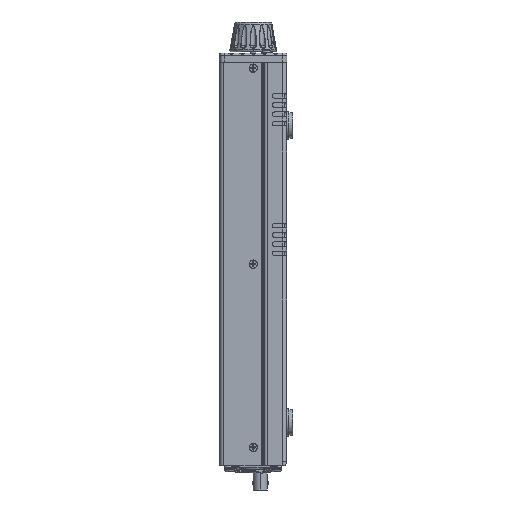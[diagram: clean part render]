
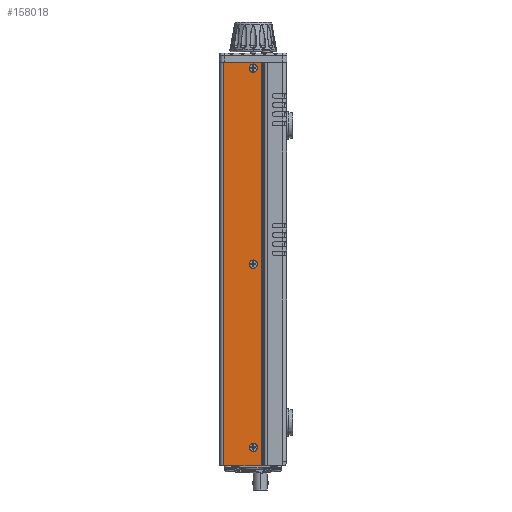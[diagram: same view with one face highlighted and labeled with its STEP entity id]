
A CAD part, left-side view. The second image highlights one B-rep face of the part: STEP entity #158018.
In plain terms, the highlighted planar face has unit normal (-1, 0, 0).
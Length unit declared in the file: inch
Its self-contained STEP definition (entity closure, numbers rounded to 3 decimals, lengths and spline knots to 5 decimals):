
#52 = CARTESIAN_POINT ( 'NONE',  ( -4.25, -0.12505, -0.9 ) ) ;
#580 = DIRECTION ( 'NONE',  ( -1., 0., 0. ) ) ;
#1906 = CARTESIAN_POINT ( 'NONE',  ( -4.25, 0., -5.8 ) ) ;
#3487 = DIRECTION ( 'NONE',  ( 0., 0., 1. ) ) ;
#14144 = VERTEX_POINT ( 'NONE', #163157 ) ;
#15755 = EDGE_CURVE ( 'NONE', #35605, #229981, #170378, .T. ) ;
#16556 = FACE_BOUND ( 'NONE', #234629, .T. ) ;
#17251 = EDGE_LOOP ( 'NONE', ( #135474, #212068, #50820, #133377 ) ) ;
#18383 = DIRECTION ( 'NONE',  ( 0., 0., -1. ) ) ;
#23065 = EDGE_CURVE ( 'NONE', #229981, #111968, #172896, .T. ) ;
#24872 = EDGE_LOOP ( 'NONE', ( #197271, #47864 ) ) ;
#25516 = VECTOR ( 'NONE', #200939, 39.37008 ) ;
#33002 = VECTOR ( 'NONE', #162336, 39.37008 ) ;
#33182 = VECTOR ( 'NONE', #148154, 39.37008 ) ;
#34723 = CIRCLE ( 'NONE', #165238, 0.1125 ) ;
#35605 = VERTEX_POINT ( 'NONE', #144251 ) ;
#35949 = PLANE ( 'NONE',  #103467 ) ;
#42245 = CARTESIAN_POINT ( 'NONE',  ( -4.25, 0., -5.575 ) ) ;
#47864 = ORIENTED_EDGE ( 'NONE', *, *, #232629, .F. ) ;
#50820 = ORIENTED_EDGE ( 'NONE', *, *, #70654, .T. ) ;
#53653 = CARTESIAN_POINT ( 'NONE',  ( -4.25, 0., -0.40625 ) ) ;
#54943 = CARTESIAN_POINT ( 'NONE',  ( -4.25, 0.8375, -11.125 ) ) ;
#55512 = VERTEX_POINT ( 'NONE', #229360 ) ;
#57649 = EDGE_CURVE ( 'NONE', #14144, #174170, #34723, .T. ) ;
#59257 = FACE_OUTER_BOUND ( 'NONE', #17251, .T. ) ;
#59294 = ORIENTED_EDGE ( 'NONE', *, *, #57649, .F. ) ;
#62232 = CARTESIAN_POINT ( 'NONE',  ( -4.25, 0., -0.40625 ) ) ;
#63808 = CIRCLE ( 'NONE', #178760, 0.1125 ) ;
#69036 = CARTESIAN_POINT ( 'NONE',  ( -4.25, 0., -5.6875 ) ) ;
#70432 = CARTESIAN_POINT ( 'NONE',  ( -4.25, 0., -10.5125 ) ) ;
#70654 = EDGE_CURVE ( 'NONE', #172071, #35605, #165263, .T. ) ;
#72048 = DIRECTION ( 'NONE',  ( 0., 0., 1. ) ) ;
#74945 = DIRECTION ( 'NONE',  ( -1., 0., 0. ) ) ;
#76412 = CARTESIAN_POINT ( 'NONE',  ( -4.25, -0.12505, -0.25 ) ) ;
#78704 = VERTEX_POINT ( 'NONE', #42245 ) ;
#80597 = DIRECTION ( 'NONE',  ( 0., 0., 1. ) ) ;
#81174 = CIRCLE ( 'NONE', #159958, 0.1125 ) ;
#81683 = CARTESIAN_POINT ( 'NONE',  ( -4.25, 0.79063, -11.125 ) ) ;
#87391 = DIRECTION ( 'NONE',  ( 0., 0., 1. ) ) ;
#89257 = EDGE_CURVE ( 'NONE', #224995, #55512, #81174, .T. ) ;
#91357 = CARTESIAN_POINT ( 'NONE',  ( -4.25, 0.79063, -0.9 ) ) ;
#92581 = AXIS2_PLACEMENT_3D ( 'NONE', #53653, #181267, #72048 ) ;
#92774 = AXIS2_PLACEMENT_3D ( 'NONE', #109724, #580, #128045 ) ;
#93504 = EDGE_CURVE ( 'NONE', #172071, #111968, #178471, .T. ) ;
#95393 = DIRECTION ( 'NONE',  ( 0., 0., 1. ) ) ;
#103467 = AXIS2_PLACEMENT_3D ( 'NONE', #52, #127527, #18383 ) ;
#105302 = CIRCLE ( 'NONE', #179673, 0.1125 ) ;
#107112 = CIRCLE ( 'NONE', #92774, 0.1125 ) ;
#107738 = FACE_BOUND ( 'NONE', #24872, .T. ) ;
#109724 = CARTESIAN_POINT ( 'NONE',  ( -4.25, 0., -10.625 ) ) ;
#110626 = EDGE_CURVE ( 'NONE', #55512, #224995, #107112, .T. ) ;
#111968 = VERTEX_POINT ( 'NONE', #159227 ) ;
#112655 = DIRECTION ( 'NONE',  ( -1., 0., 0. ) ) ;
#113208 = ORIENTED_EDGE ( 'NONE', *, *, #89257, .F. ) ;
#127527 = DIRECTION ( 'NONE',  ( 1., 0., 0. ) ) ;
#128045 = DIRECTION ( 'NONE',  ( 0., 0., 1. ) ) ;
#128148 = ORIENTED_EDGE ( 'NONE', *, *, #146706, .F. ) ;
#133377 = ORIENTED_EDGE ( 'NONE', *, *, #15755, .T. ) ;
#135474 = ORIENTED_EDGE ( 'NONE', *, *, #23065, .T. ) ;
#140170 = ORIENTED_EDGE ( 'NONE', *, *, #110626, .F. ) ;
#144251 = CARTESIAN_POINT ( 'NONE',  ( -4.25, -0.2125, -11.125 ) ) ;
#146706 = EDGE_CURVE ( 'NONE', #174170, #14144, #180785, .T. ) ;
#148154 = DIRECTION ( 'NONE',  ( 0., 1., 0. ) ) ;
#158018 = ADVANCED_FACE ( 'NONE', ( #59257, #107738, #204824, #16556 ), #35949, .F. ) ;
#159227 = CARTESIAN_POINT ( 'NONE',  ( -4.25, 0.79063, -0.25 ) ) ;
#159958 = AXIS2_PLACEMENT_3D ( 'NONE', #184179, #74945, #202497 ) ;
#162336 = DIRECTION ( 'NONE',  ( 0., 0., 1. ) ) ;
#163157 = CARTESIAN_POINT ( 'NONE',  ( -4.25, 0., -0.51875 ) ) ;
#165238 = AXIS2_PLACEMENT_3D ( 'NONE', #62232, #189822, #80597 ) ;
#165263 = LINE ( 'NONE', #54943, #25516 ) ;
#170378 = LINE ( 'NONE', #223057, #218937 ) ;
#172071 = VERTEX_POINT ( 'NONE', #81683 ) ;
#172896 = LINE ( 'NONE', #76412, #33182 ) ;
#174170 = VERTEX_POINT ( 'NONE', #184497 ) ;
#178471 = LINE ( 'NONE', #91357, #33002 ) ;
#178760 = AXIS2_PLACEMENT_3D ( 'NONE', #221942, #112655, #3487 ) ;
#179673 = AXIS2_PLACEMENT_3D ( 'NONE', #69036, #196562, #87391 ) ;
#180785 = CIRCLE ( 'NONE', #92581, 0.1125 ) ;
#181267 = DIRECTION ( 'NONE',  ( -1., 0., 0. ) ) ;
#183851 = EDGE_CURVE ( 'NONE', #78704, #221380, #63808, .T. ) ;
#184179 = CARTESIAN_POINT ( 'NONE',  ( -4.25, 0., -10.625 ) ) ;
#184497 = CARTESIAN_POINT ( 'NONE',  ( -4.25, 0., -0.29375 ) ) ;
#189822 = DIRECTION ( 'NONE',  ( -1., 0., 0. ) ) ;
#196562 = DIRECTION ( 'NONE',  ( -1., 0., 0. ) ) ;
#197271 = ORIENTED_EDGE ( 'NONE', *, *, #183851, .F. ) ;
#200939 = DIRECTION ( 'NONE',  ( 0., -1., 0. ) ) ;
#202497 = DIRECTION ( 'NONE',  ( 0., 0., 1. ) ) ;
#204824 = FACE_BOUND ( 'NONE', #212125, .T. ) ;
#212068 = ORIENTED_EDGE ( 'NONE', *, *, #93504, .F. ) ;
#212125 = EDGE_LOOP ( 'NONE', ( #128148, #59294 ) ) ;
#218937 = VECTOR ( 'NONE', #95393, 39.37008 ) ;
#221380 = VERTEX_POINT ( 'NONE', #1906 ) ;
#221942 = CARTESIAN_POINT ( 'NONE',  ( -4.25, 0., -5.6875 ) ) ;
#223057 = CARTESIAN_POINT ( 'NONE',  ( -4.25, -0.2125, -0.9 ) ) ;
#224995 = VERTEX_POINT ( 'NONE', #70432 ) ;
#229360 = CARTESIAN_POINT ( 'NONE',  ( -4.25, 0., -10.7375 ) ) ;
#229981 = VERTEX_POINT ( 'NONE', #232124 ) ;
#232124 = CARTESIAN_POINT ( 'NONE',  ( -4.25, -0.2125, -0.25 ) ) ;
#232629 = EDGE_CURVE ( 'NONE', #221380, #78704, #105302, .T. ) ;
#234629 = EDGE_LOOP ( 'NONE', ( #113208, #140170 ) ) ;
